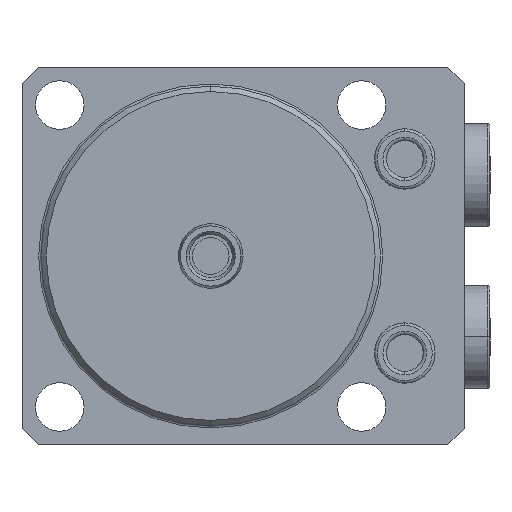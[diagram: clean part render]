
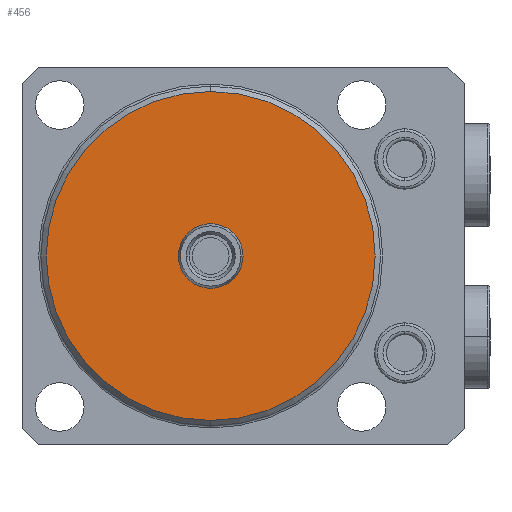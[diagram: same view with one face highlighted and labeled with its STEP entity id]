
A CAD part, front view. The second image highlights one B-rep face of the part: STEP entity #456.
In plain terms, the highlighted planar face has unit normal (0, -1, 0) as drawn and (0, 1, 0) by its records, which use the part's own axes.
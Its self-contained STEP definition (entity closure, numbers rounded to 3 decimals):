
#196=PLANE('',#4770);
#306=FACE_BOUND('',#1098,.F.);
#307=FACE_BOUND('',#1099,.F.);
#456=ADVANCED_FACE('',(#306,#307),#196,.T.);
#1098=EDGE_LOOP('',(#1947,#1948));
#1099=EDGE_LOOP('',(#1949,#1950));
#1380=CIRCLE('',#4656,6.);
#1435=CIRCLE('',#4734,30.5);
#1454=CIRCLE('',#4768,6.);
#1455=CIRCLE('',#4769,30.5);
#1947=ORIENTED_EDGE('',*,*,#3587,.T.);
#1948=ORIENTED_EDGE('',*,*,#3408,.T.);
#1949=ORIENTED_EDGE('',*,*,#3588,.T.);
#1950=ORIENTED_EDGE('',*,*,#3496,.T.);
#2984=VERTEX_POINT('',#6761);
#2985=VERTEX_POINT('',#6762);
#3056=VERTEX_POINT('',#6949);
#3057=VERTEX_POINT('',#6950);
#3408=EDGE_CURVE('',#2984,#2985,#1380,.T.);
#3496=EDGE_CURVE('',#3056,#3057,#1435,.T.);
#3587=EDGE_CURVE('',#2985,#2984,#1454,.T.);
#3588=EDGE_CURVE('',#3057,#3056,#1455,.T.);
#4656=AXIS2_PLACEMENT_3D('',#6760,#5296,#5297);
#4734=AXIS2_PLACEMENT_3D('',#6948,#5484,#5485);
#4768=AXIS2_PLACEMENT_3D('',#7206,#5601,#5602);
#4769=AXIS2_PLACEMENT_3D('',#7207,#5603,#5604);
#4770=AXIS2_PLACEMENT_3D('',#7208,#5605,#5606);
#5296=DIRECTION('',(0.,1.,0.));
#5297=DIRECTION('',(0.,0.,1.));
#5484=DIRECTION('',(0.,-1.,0.));
#5485=DIRECTION('',(0.,0.,1.));
#5601=DIRECTION('',(0.,1.,0.));
#5602=DIRECTION('',(0.,0.,1.));
#5603=DIRECTION('',(0.,-1.,0.));
#5604=DIRECTION('',(0.,0.,1.));
#5605=DIRECTION('',(0.,1.,0.));
#5606=DIRECTION('',(0.,0.,1.));
#6760=CARTESIAN_POINT('',(0.,-47.,0.));
#6761=CARTESIAN_POINT('',(0.,-47.,-6.));
#6762=CARTESIAN_POINT('',(0.,-47.,6.));
#6948=CARTESIAN_POINT('',(0.,-47.,0.));
#6949=CARTESIAN_POINT('',(0.,-47.,-30.5));
#6950=CARTESIAN_POINT('',(0.,-47.,30.5));
#7206=CARTESIAN_POINT('',(0.,-47.,0.));
#7207=CARTESIAN_POINT('',(0.,-47.,0.));
#7208=CARTESIAN_POINT('',(0.,-47.,0.));
